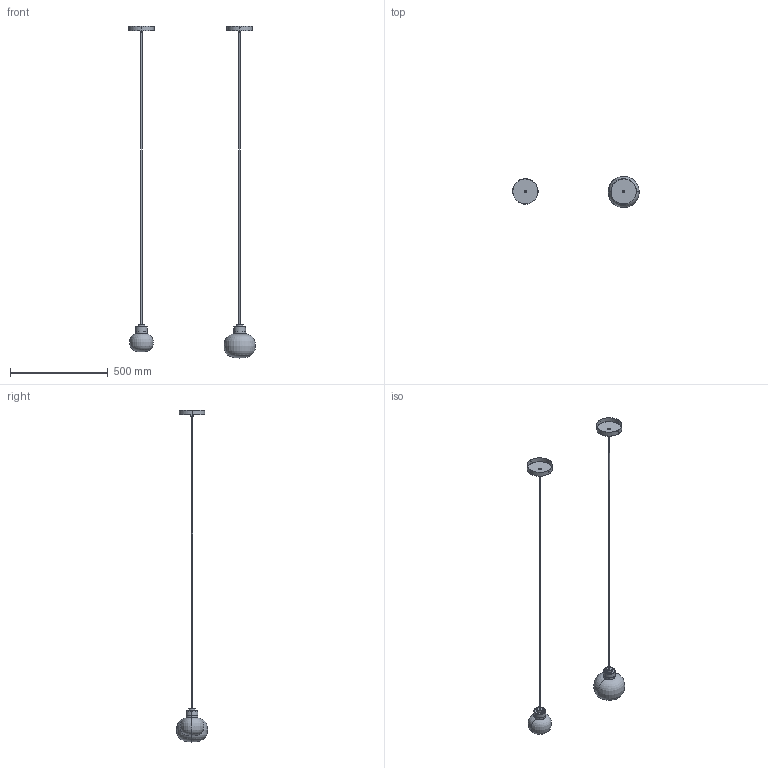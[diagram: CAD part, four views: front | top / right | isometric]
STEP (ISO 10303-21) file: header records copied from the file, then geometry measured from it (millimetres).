
FILE_DESCRIPTION(/* description */ (''),/* implementation_level */ '2;1');
FILE_NAME(/* name */ '5FVKK8~B',/* time_stamp */ '2021-11-02T11:03:39+01:00',/* author */ (''),/* organization */ (''),/* preprocessor_version */ 'ST-DEVELOPER v15',/* originating_system */ '',/* authorisation */ '');
FILE_SCHEMA (('AUTOMOTIVE_DESIGN'));
Length unit declared in the file: millimetre
Products named in the file (1): Document
Bounding box: 646.62 x 159.99 x 1695.38 mm (x, y, z)
Volume: 312918.8 mm3; surface area: 583008.5 mm2
Topology: 14 solids, 18 shells, 170 faces, 358 edges, 208 vertices
Faces by surface type: bspline 170
Entity records: 21174 total; most frequent: CARTESIAN_POINT 16899, ORIENTED_EDGE 680, PCURVE 680, DEFINITIONAL_REPRESENTATION 680, B_SPLINE_CURVE_WITH_KNOTS 636, SURFACE_CURVE 344, EDGE_CURVE 344, VERTEX_POINT 208
